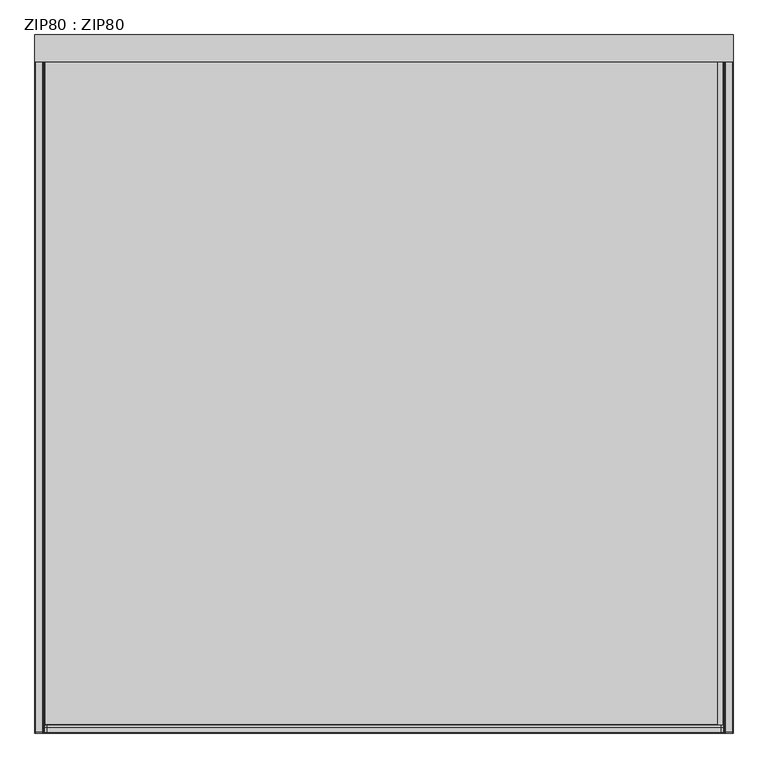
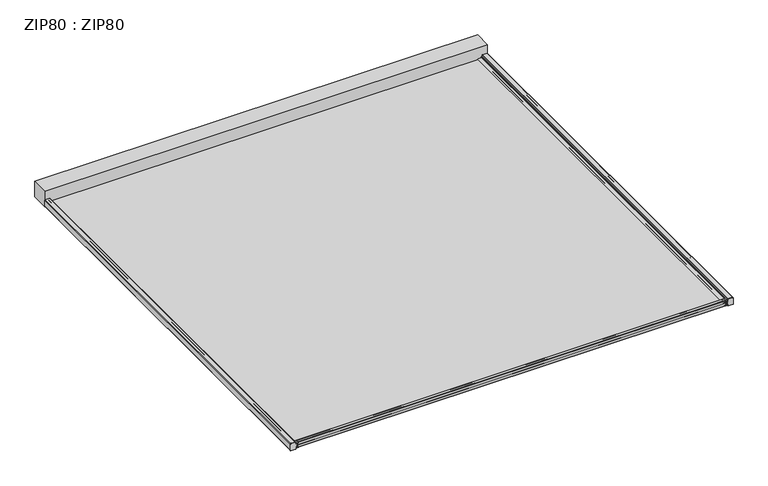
"""IFC4 building model written with IfcOpenShell, lengths in millimetres: proxy geometry, ZIP80 : ZIP80."""

from ifc_helpers import new_model, si_unit, point, frame, frame_2d, origin, origin_with_axes, place, context, project, spatial, polyline, circle_curve, trimmed, segment, composite_curve, outline, extrude, source, transform, mapped, element, save
from ifc_brep_helpers import plane_surface, cylinder_surface, advanced_brep


def zip80_zip80_a5059c3e(model_context):
    return source(origin(), model_context, "Body", "SolidModel", [
        extrude(outline(composite_curve([segment(trimmed(circle_curve(frame_2d((1.7422774, -1075.463027)), 1.7559348), [point((0.0, -1075.6816053))], [point((1.6734694, -1073.7084409))], False, "CARTESIAN"), True, "CONTINUOUS"), segment(trimmed(circle_curve(frame_2d((18.0, -1172.366661)), 100.0), [point((1.6734694, -1073.7084409))], [point((8.0080679, -1072.8671068))], False, "CARTESIAN"), True, "CONTINUOUS"), segment(trimmed(circle_curve(frame_2d((7.9281325, -1072.0711103)), 0.8), [point((8.0080679, -1072.8671068))], [point((8.7106505, -1072.2374397))], True, "CARTESIAN"), True, "CONTINUOUS"), segment(polyline([(8.7106505, -1072.2374397), (9.1994909, -1069.9376265)]), True, "CONTINUOUS"), segment(trimmed(circle_curve(frame_2d((9.7247455, -1070.4039234)), 0.7023711), [point((9.1994909, -1069.9376265))], [point((10.25, -1069.9376265))], False, "CARTESIAN"), True, "CONTINUOUS"), segment(polyline([(10.25, -1069.9376265), (25.7823744, -1069.9376265)]), True, "CONTINUOUS"), segment(trimmed(circle_curve(frame_2d((26.2914417, -1070.2414417)), 0.5928349), [point((25.7823744, -1069.9376265))], [point((26.8005091, -1069.9376265))], False, "CARTESIAN"), True, "CONTINUOUS"), segment(polyline([(26.8005091, -1069.9376265), (27.2893495, -1072.2374397)]), True, "CONTINUOUS"), segment(trimmed(circle_curve(frame_2d((28.0718675, -1072.0711103)), 0.8), [point((27.2893495, -1072.2374397))], [point((27.9919321, -1072.8671068))], True, "CARTESIAN"), True, "CONTINUOUS"), segment(trimmed(circle_curve(frame_2d((18.0, -1172.366661)), 100.0), [point((27.9919321, -1072.8671068))], [point((34.3265306, -1073.7084409))], False, "CARTESIAN"), True, "CONTINUOUS"), segment(trimmed(circle_curve(frame_2d((34.2324144, -1075.4844913)), 1.7785423), [point((34.3265306, -1073.7084409))], [point((36.0, -1075.6816053))], False, "CARTESIAN"), True, "CONTINUOUS"), segment(polyline([(36.0, -1075.6816053), (36.0, -1097.8)]), True, "CONTINUOUS"), segment(trimmed(circle_curve(frame_2d((34.0219176, -1098.010725)), 1.989275), [point((36.0, -1097.8))], [point((34.0219176, -1100.0))], False, "CARTESIAN"), True, "CONTINUOUS"), segment(polyline([(34.0219176, -1100.0), (2.2, -1100.0)]), True, "CONTINUOUS"), segment(trimmed(circle_curve(frame_2d((2.2, -1097.8)), 2.2), [point((2.2, -1100.0))], [point((0.0, -1097.8))], False, "CARTESIAN"), True, "CONTINUOUS"), segment(polyline([(0.0, -1097.8), (0.0, -1075.6816053)]), True, "CONTINUOUS")], self_intersect=False)), frame((0.0, 84.0, 0.0), z_axis=(0.0, 1.0, 0.0), x_axis=(0.0, 0.0, 1.0)), (0.0, 0.0, 1.0), 2.5),
        extrude(outline(composite_curve([segment(polyline([(25.75, -1079.4), (25.75, -1070.0)]), True, "CONTINUOUS"), segment(trimmed(circle_curve(frame_2d((26.2914417, -1070.2414417)), 0.5928349), [point((25.75, -1070.0))], [point((26.8005091, -1069.9376265))], False, "CARTESIAN"), True, "CONTINUOUS"), segment(polyline([(26.8005091, -1069.9376265), (27.2893495, -1072.2374397)]), True, "CONTINUOUS"), segment(trimmed(circle_curve(frame_2d((28.0718675, -1072.0711103)), 0.8), [point((27.2893495, -1072.2374397))], [point((27.9919321, -1072.8671068))], True, "CARTESIAN"), True, "CONTINUOUS"), segment(trimmed(circle_curve(frame_2d((18.0, -1172.366661)), 100.0), [point((27.9919321, -1072.8671068))], [point((34.3265306, -1073.7084409))], False, "CARTESIAN"), True, "CONTINUOUS"), segment(trimmed(circle_curve(frame_2d((34.2324144, -1075.4844913)), 1.7785423), [point((34.3265306, -1073.7084409))], [point((36.0, -1075.6816053))], False, "CARTESIAN"), True, "CONTINUOUS"), segment(polyline([(36.0, -1075.6816053), (36.0, -1097.8)]), True, "CONTINUOUS"), segment(trimmed(circle_curve(frame_2d((34.0219176, -1098.010725)), 1.989275), [point((36.0, -1097.8))], [point((34.0219176, -1100.0))], False, "CARTESIAN"), True, "CONTINUOUS"), segment(polyline([(34.0219176, -1100.0), (2.2, -1100.0)]), True, "CONTINUOUS"), segment(trimmed(circle_curve(frame_2d((2.2, -1097.8)), 2.2), [point((2.2, -1100.0))], [point((0.0, -1097.8))], False, "CARTESIAN"), True, "CONTINUOUS"), segment(polyline([(0.0, -1097.8), (0.0, -1075.6816053)]), True, "CONTINUOUS"), segment(trimmed(circle_curve(frame_2d((1.7422774, -1075.463027)), 1.7559348), [point((0.0, -1075.6816053))], [point((1.6734694, -1073.7084409))], False, "CARTESIAN"), True, "CONTINUOUS"), segment(trimmed(circle_curve(frame_2d((18.0, -1172.366661)), 100.0), [point((1.6734694, -1073.7084409))], [point((8.0080679, -1072.8671068))], False, "CARTESIAN"), True, "CONTINUOUS"), segment(trimmed(circle_curve(frame_2d((7.9281325, -1072.0711103)), 0.8), [point((8.0080679, -1072.8671068))], [point((8.7106505, -1072.2374397))], True, "CARTESIAN"), True, "CONTINUOUS"), segment(polyline([(8.7106505, -1072.2374397), (9.1994909, -1069.9376265)]), True, "CONTINUOUS"), segment(trimmed(circle_curve(frame_2d((9.7247455, -1070.4039234)), 0.7023711), [point((9.1994909, -1069.9376265))], [point((10.25, -1069.9376265))], False, "CARTESIAN"), True, "CONTINUOUS"), segment(polyline([(10.25, -1069.9376265), (10.25, -1079.4)]), True, "CONTINUOUS"), segment(trimmed(circle_curve(frame_2d((9.65, -1078.9881054)), 0.7277755), [point((10.25, -1079.4))], [point((9.05, -1079.4))], False, "CARTESIAN"), True, "CONTINUOUS"), segment(polyline([(9.05, -1079.4), (9.05, -1075.1150638)]), True, "CONTINUOUS"), segment(trimmed(circle_curve(frame_2d((8.4890653, -1075.1150638)), 0.5609347), [point((9.05, -1075.1150638))], [point((8.4890653, -1074.5541291))], True, "CARTESIAN"), True, "CONTINUOUS"), segment(polyline([(8.4890653, -1074.5541291), (2.4781307, -1075.2921791)]), True, "CONTINUOUS"), segment(trimmed(circle_curve(frame_2d((2.6, -1076.2847253)), 1.0), [point((2.4781307, -1075.2921791))], [point((1.6, -1076.2847253))], True, "CARTESIAN"), True, "CONTINUOUS"), segment(polyline([(1.6, -1076.2847253), (1.6, -1088.7), (34.4, -1088.7), (34.4, -1076.2847253)]), True, "CONTINUOUS"), segment(trimmed(circle_curve(frame_2d((33.4, -1076.2847253)), 1.0), [point((34.4, -1076.2847253))], [point((33.5218693, -1075.2921791))], True, "CARTESIAN"), True, "CONTINUOUS"), segment(polyline([(33.5218693, -1075.2921791), (27.5109347, -1074.5541291)]), True, "CONTINUOUS"), segment(trimmed(circle_curve(frame_2d((27.5109347, -1075.1150638)), 0.5609347), [point((27.5109347, -1074.5541291))], [point((26.95, -1075.1150638))], True, "CARTESIAN"), True, "CONTINUOUS"), segment(polyline([(26.95, -1075.1150638), (26.95, -1079.4)]), True, "CONTINUOUS"), segment(trimmed(circle_curve(frame_2d((26.35, -1078.9507451)), 0.7495532), [point((26.95, -1079.4))], [point((25.75, -1079.4))], False, "CARTESIAN"), True, "CONTINUOUS")], self_intersect=False)), frame((0.0, 86.5, 0.0), z_axis=(0.0, 1.0, 0.0), x_axis=(0.0, 0.0, 1.0)), (0.0, 0.0, 1.0), 2113.5),
        extrude(outline(polyline([(1084.649649, 84.6889479), (1069.649649, 84.6889479), (1069.649649, 110.6794166), (1084.649649, 110.6794166), (1084.649649, 84.6889479)])), frame((0.0, 0.0, 12.4227429), z_axis=(0.0, 0.0, 1.0), x_axis=(1.0, 0.0, 0.0)), (0.0, 0.0, 1.0), 11.1545142),
        extrude(outline(polyline([(-1084.649649, 84.6889479), (-1084.649649, 110.6794166), (-1069.649649, 110.6794166), (-1069.649649, 84.6889479), (-1084.649649, 84.6889479)])), frame((0.0, 0.0, 12.4227429), z_axis=(0.0, 0.0, 1.0), x_axis=(1.0, 0.0, 0.0)), (0.0, 0.0, 1.0), 11.1545142),
        extrude(outline(composite_curve([segment(trimmed(circle_curve(frame_2d((61.0414996, -12.924064)), 60.0), [point((100.3, 32.4496084))], [point((110.0965711, 21.624452))], False, "CARTESIAN"), True, "CONTINUOUS"), segment(trimmed(circle_curve(frame_2d((98.4949342, 17.9496084)), 12.1697352), [point((110.0965711, 21.624452))], [point((110.0965711, 14.2747649))], False, "CARTESIAN"), True, "CONTINUOUS"), segment(trimmed(circle_curve(frame_2d((61.0414996, 48.8232809)), 60.0), [point((110.0965711, 14.2747649))], [point((100.3, 3.4496084))], False, "CARTESIAN"), True, "CONTINUOUS"), segment(trimmed(circle_curve(frame_2d((92.55, 52.8453319)), 50.0), [point((100.3, 3.4496084))], [point((86.3796304, 3.2275273))], False, "CARTESIAN"), True, "CONTINUOUS"), segment(trimmed(circle_curve(frame_2d((86.6264452, 5.2122395)), 2.0), [point((86.3796304, 3.2275273))], [point((84.6360972, 5.0159875))], False, "CARTESIAN"), True, "CONTINUOUS"), segment(trimmed(circle_curve(frame_2d((215.80625, 17.9496084)), 131.80625), [point((84.6360972, 5.0159875))], [point((84.6360972, 30.8832294))], False, "CARTESIAN"), True, "CONTINUOUS"), segment(trimmed(circle_curve(frame_2d((86.6264452, 30.6869774)), 2.0), [point((84.6360972, 30.8832294))], [point((86.3796304, 32.6716896))], False, "CARTESIAN"), True, "CONTINUOUS"), segment(trimmed(circle_curve(frame_2d((92.55, -16.9461151)), 50.0), [point((86.3796304, 32.6716896))], [point((100.3, 32.4496084))], False, "CARTESIAN"), True, "CONTINUOUS")], self_intersect=False)), frame((1062.649649, 0.0, 0.0), z_axis=(1.0, 0.0, 0.0), x_axis=(0.0, 1.0, 0.0)), (0.0, 0.0, 1.0), 7.0),
        advanced_brep(
        [(-1062.649649, 100.3, 32.4496084), (-1062.649649, 86.3796304, 32.6716896), (-1062.649649, 84.6360972, 30.8832294), (-1062.649649, 84.6360972, 5.0159875), (-1062.649649, 86.3796304, 3.2275273), (-1062.649649, 100.3, 3.4496084), (-1062.649649, 110.0965711, 14.2747649), (-1062.649649, 110.1319327, 21.5859735), (-1069.649649, 100.3, 32.4496084), (-1069.649649, 110.1250029, 21.5840467), (-1069.649649, 110.14738, 14.2602109), (-1069.649649, 100.3, 3.4496084), (-1069.649649, 86.3796304, 3.2275273), (-1069.649649, 84.6360972, 5.0159875), (-1069.649649, 84.6360972, 30.8832294), (-1069.649649, 86.3796304, 32.6716896)],
        [
            (0, 1, circle_curve(frame((-1062.649649, 92.55, -16.9461151), z_axis=(1.0, 0.0, 0.0), x_axis=(0.0, 1.0, 0.0)), 50.0)),
            (1, 2, circle_curve(frame((-1062.649649, 86.6264452, 30.6869774), z_axis=(1.0, 0.0, 0.0), x_axis=(0.0, 1.0, 0.0)), 2.0)),
            (2, 3, circle_curve(frame((-1062.649649, 215.80625, 17.9496084), z_axis=(1.0, 0.0, 0.0), x_axis=(0.0, 1.0, 0.0)), 131.80625)),
            (3, 4, circle_curve(frame((-1062.649649, 86.6264452, 5.2122395), z_axis=(1.0, 0.0, 0.0), x_axis=(0.0, 1.0, 0.0)), 2.0)),
            (4, 5, circle_curve(frame((-1062.649649, 92.55, 52.8453319), z_axis=(1.0, 0.0, 0.0), x_axis=(0.0, 1.0, 0.0)), 50.0)),
            (5, 6, circle_curve(frame((-1062.649649, 61.0414996, 48.8232809), z_axis=(1.0, 0.0, 0.0), x_axis=(0.0, 1.0, 0.0)), 60.0)),
            (6, 7, circle_curve(frame((-1062.649649, 96.1569094, 17.8936079), z_axis=(1.0, 0.0, 0.0), x_axis=(0.0, 1.0, 0.0)), 14.4545785)),
            (7, 0, circle_curve(frame((-1062.649649, 61.0414996, -12.924064), z_axis=(1.0, 0.0, 0.0), x_axis=(0.0, 1.0, 0.0)), 60.0)),
            (8, 9, circle_curve(frame((-1069.649649, 61.0414996, -12.924064), z_axis=(-1.0, 0.0, 0.0), x_axis=(0.0, 1.0, 0.0)), 60.0)),
            (9, 10, circle_curve(frame((-1069.649649, 96.1569094, 17.8936079), z_axis=(-1.0, 0.0, 0.0), x_axis=(0.0, 1.0, 0.0)), 14.4545785)),
            (10, 11, circle_curve(frame((-1069.649649, 61.0414996, 48.8232809), z_axis=(-1.0, 0.0, 0.0), x_axis=(0.0, 1.0, 0.0)), 60.0)),
            (11, 12, circle_curve(frame((-1069.649649, 92.55, 52.8453319), z_axis=(-1.0, 0.0, 0.0), x_axis=(0.0, 1.0, 0.0)), 50.0)),
            (12, 13, circle_curve(frame((-1069.649649, 86.6264452, 5.2122395), z_axis=(-1.0, 0.0, 0.0), x_axis=(0.0, 1.0, 0.0)), 2.0)),
            (13, 14, circle_curve(frame((-1069.649649, 215.80625, 17.9496084), z_axis=(-1.0, 0.0, 0.0), x_axis=(0.0, 1.0, 0.0)), 131.80625)),
            (14, 15, circle_curve(frame((-1069.649649, 86.6264452, 30.6869774), z_axis=(-1.0, 0.0, 0.0), x_axis=(0.0, 1.0, 0.0)), 2.0)),
            (15, 8, circle_curve(frame((-1069.649649, 92.55, -16.9461151), z_axis=(-1.0, 0.0, 0.0), x_axis=(0.0, 1.0, 0.0)), 50.0)),
            (0, 8),
            (15, 1),
            (14, 2),
            (13, 3),
            (12, 4),
            (11, 5),
            (10, 6),
            (9, 7),
        ],
        [
            plane_surface(frame((-1062.649649, 142.55, -16.9461151), z_axis=(1.0, 0.0, 0.0), x_axis=(0.0, 0.0, 1.0))),
            plane_surface(frame((-1069.649649, 142.55, -16.9461151), z_axis=(-1.0, 0.0, 0.0), x_axis=(0.0, 0.0, -1.0))),
            cylinder_surface(frame((-1069.649649, 92.55, -16.9461151), z_axis=(1.0, 0.0, 0.0), x_axis=(0.0, 1.0, 0.0)), 50.0),
            cylinder_surface(frame((-1069.649649, 86.6264452, 30.6869774), z_axis=(1.0, 0.0, 0.0), x_axis=(0.0, 1.0, 0.0)), 2.0),
            cylinder_surface(frame((-1069.649649, 215.80625, 17.9496084), z_axis=(1.0, 0.0, 0.0), x_axis=(0.0, 1.0, 0.0)), 131.80625),
            cylinder_surface(frame((-1069.649649, 86.6264452, 5.2122395), z_axis=(1.0, 0.0, 0.0), x_axis=(0.0, 1.0, 0.0)), 2.0),
            cylinder_surface(frame((-1069.649649, 92.55, 52.8453319), z_axis=(1.0, 0.0, 0.0), x_axis=(0.0, 1.0, 0.0)), 50.0),
            cylinder_surface(frame((-1069.649649, 61.0414996, 48.8232809), z_axis=(1.0, 0.0, 0.0), x_axis=(0.0, 1.0, 0.0)), 60.0),
            cylinder_surface(frame((-1069.649649, 96.1569094, 17.8936079), z_axis=(1.0, 0.0, 0.0), x_axis=(0.0, 1.0, 0.0)), 14.4545785),
            cylinder_surface(frame((-1069.649649, 61.0414996, -12.924064), z_axis=(1.0, 0.0, 0.0), x_axis=(0.0, 1.0, 0.0)), 60.0),
        ],
        [
            (0, [[1, 2, 3, 4, 5, 6, 7, 8]]),
            (1, [[9, 10, 11, 12, 13, 14, 15, 16]]),
            (2, [[-1, 17, -16, 18]]),
            (3, [[-2, -18, -15, 19]]),
            (4, [[-3, -19, -14, 20]]),
            (5, [[-4, -20, -13, 21]]),
            (6, [[-5, -21, -12, 22]]),
            (7, [[-6, -22, -11, 23]]),
            (8, [[-7, -23, -10, 24]]),
            (9, [[-8, -24, -9, -17]]),
        ],
    ),
        extrude(outline(composite_curve([segment(trimmed(circle_curve(frame_2d((61.0414996, -12.924064)), 60.0), [point((100.3, 32.4496084))], [point((110.0965711, 21.624452))], False, "CARTESIAN"), True, "CONTINUOUS"), segment(trimmed(circle_curve(frame_2d((109.5389048, 21.2316986)), 0.6820902), [point((110.0965711, 21.624452))], [point((108.9608793, 20.8695749))], False, "CARTESIAN"), True, "CONTINUOUS"), segment(trimmed(circle_curve(frame_2d((104.3, 17.9496084)), 5.5), [point((108.9608793, 20.8695749))], [point((108.9608793, 15.029642))], True, "CARTESIAN"), True, "CONTINUOUS"), segment(trimmed(circle_curve(frame_2d((109.5389048, 14.6675183)), 0.6820902), [point((108.9608793, 15.029642))], [point((110.0965711, 14.2747649))], False, "CARTESIAN"), True, "CONTINUOUS"), segment(trimmed(circle_curve(frame_2d((61.0414996, 48.8232809)), 60.0), [point((110.0965711, 14.2747649))], [point((100.3, 3.4496084))], False, "CARTESIAN"), True, "CONTINUOUS"), segment(trimmed(circle_curve(frame_2d((92.55, 52.8453319)), 50.0), [point((100.3, 3.4496084))], [point((86.3796304, 3.2275273))], False, "CARTESIAN"), True, "CONTINUOUS"), segment(trimmed(circle_curve(frame_2d((86.6264452, 5.2122395)), 2.0), [point((86.3796304, 3.2275273))], [point((84.6360972, 5.0159875))], False, "CARTESIAN"), True, "CONTINUOUS"), segment(trimmed(circle_curve(frame_2d((215.80625, 17.9496084)), 131.80625), [point((84.6360972, 5.0159875))], [point((84.6360972, 30.8832294))], False, "CARTESIAN"), True, "CONTINUOUS"), segment(trimmed(circle_curve(frame_2d((86.6264452, 30.6869774)), 2.0), [point((84.6360972, 30.8832294))], [point((86.3796304, 32.6716896))], False, "CARTESIAN"), True, "CONTINUOUS"), segment(trimmed(circle_curve(frame_2d((92.55, -16.9461151)), 50.0), [point((86.3796304, 32.6716896))], [point((100.3, 32.4496084))], False, "CARTESIAN"), True, "CONTINUOUS")], self_intersect=False)), frame((-1062.649649, 0.0, 0.0), z_axis=(1.0, 0.0, 0.0), x_axis=(0.0, 1.0, 0.0)), (0.0, 0.0, 1.0), 2125.299298),
        extrude(outline(composite_curve([segment(polyline([(0.0, 1075.6816053), (0.0, 1097.8)]), True, "CONTINUOUS"), segment(trimmed(circle_curve(frame_2d((2.2, 1097.8)), 2.2), [point((0.0, 1097.8))], [point((2.2, 1100.0))], False, "CARTESIAN"), True, "CONTINUOUS"), segment(polyline([(2.2, 1100.0), (34.0219176, 1100.0)]), True, "CONTINUOUS"), segment(trimmed(circle_curve(frame_2d((34.0219176, 1098.010725)), 1.989275), [point((34.0219176, 1100.0))], [point((36.0, 1097.8))], False, "CARTESIAN"), True, "CONTINUOUS"), segment(polyline([(36.0, 1097.8), (36.0, 1075.6816053)]), True, "CONTINUOUS"), segment(trimmed(circle_curve(frame_2d((34.2324144, 1075.4844913)), 1.7785423), [point((36.0, 1075.6816053))], [point((34.3265306, 1073.7084409))], False, "CARTESIAN"), True, "CONTINUOUS"), segment(trimmed(circle_curve(frame_2d((18.0, 1172.366661)), 100.0), [point((34.3265306, 1073.7084409))], [point((27.9919321, 1072.8671068))], False, "CARTESIAN"), True, "CONTINUOUS"), segment(trimmed(circle_curve(frame_2d((28.0718675, 1072.0711103)), 0.8), [point((27.9919321, 1072.8671068))], [point((27.2893495, 1072.2374397))], True, "CARTESIAN"), True, "CONTINUOUS"), segment(polyline([(27.2893495, 1072.2374397), (26.8005091, 1069.9376265)]), True, "CONTINUOUS"), segment(trimmed(circle_curve(frame_2d((26.2914417, 1070.2414417)), 0.5928349), [point((26.8005091, 1069.9376265))], [point((25.7823744, 1069.9376265))], False, "CARTESIAN"), True, "CONTINUOUS"), segment(polyline([(25.7823744, 1069.9376265), (10.25, 1069.9376265)]), True, "CONTINUOUS"), segment(trimmed(circle_curve(frame_2d((9.7247455, 1070.4039234)), 0.7023711), [point((10.25, 1069.9376265))], [point((9.1994909, 1069.9376265))], False, "CARTESIAN"), True, "CONTINUOUS"), segment(polyline([(9.1994909, 1069.9376265), (8.7106505, 1072.2374397)]), True, "CONTINUOUS"), segment(trimmed(circle_curve(frame_2d((7.9281325, 1072.0711103)), 0.8), [point((8.7106505, 1072.2374397))], [point((8.0080679, 1072.8671068))], True, "CARTESIAN"), True, "CONTINUOUS"), segment(trimmed(circle_curve(frame_2d((18.0, 1172.366661)), 100.0), [point((8.0080679, 1072.8671068))], [point((1.6734694, 1073.7084409))], False, "CARTESIAN"), True, "CONTINUOUS"), segment(trimmed(circle_curve(frame_2d((1.7422774, 1075.463027)), 1.7559348), [point((1.6734694, 1073.7084409))], [point((0.0, 1075.6816053))], False, "CARTESIAN"), True, "CONTINUOUS")], self_intersect=False)), frame((0.0, 84.0, 0.0), z_axis=(0.0, 1.0, 0.0), x_axis=(0.0, 0.0, 1.0)), (0.0, 0.0, 1.0), 2.5),
        extrude(outline(composite_curve([segment(trimmed(circle_curve(frame_2d((26.35, 1078.9507451)), 0.7495532), [point((25.75, 1079.4))], [point((26.95, 1079.4))], False, "CARTESIAN"), True, "CONTINUOUS"), segment(polyline([(26.95, 1079.4), (26.95, 1075.1150638)]), True, "CONTINUOUS"), segment(trimmed(circle_curve(frame_2d((27.5109347, 1075.1150638)), 0.5609347), [point((26.95, 1075.1150638))], [point((27.5109347, 1074.5541291))], True, "CARTESIAN"), True, "CONTINUOUS"), segment(polyline([(27.5109347, 1074.5541291), (33.5218693, 1075.2921791)]), True, "CONTINUOUS"), segment(trimmed(circle_curve(frame_2d((33.4, 1076.2847253)), 1.0), [point((33.5218693, 1075.2921791))], [point((34.4, 1076.2847253))], True, "CARTESIAN"), True, "CONTINUOUS"), segment(polyline([(34.4, 1076.2847253), (34.4, 1088.7), (1.6, 1088.7), (1.6, 1076.2847253)]), True, "CONTINUOUS"), segment(trimmed(circle_curve(frame_2d((2.6, 1076.2847253)), 1.0), [point((1.6, 1076.2847253))], [point((2.4781307, 1075.2921791))], True, "CARTESIAN"), True, "CONTINUOUS"), segment(polyline([(2.4781307, 1075.2921791), (8.4890653, 1074.5541291)]), True, "CONTINUOUS"), segment(trimmed(circle_curve(frame_2d((8.4890653, 1075.1150638)), 0.5609347), [point((8.4890653, 1074.5541291))], [point((9.05, 1075.1150638))], True, "CARTESIAN"), True, "CONTINUOUS"), segment(polyline([(9.05, 1075.1150638), (9.05, 1079.4)]), True, "CONTINUOUS"), segment(trimmed(circle_curve(frame_2d((9.65, 1078.9881054)), 0.7277755), [point((9.05, 1079.4))], [point((10.25, 1079.4))], False, "CARTESIAN"), True, "CONTINUOUS"), segment(polyline([(10.25, 1079.4), (10.25, 1069.9376265)]), True, "CONTINUOUS"), segment(trimmed(circle_curve(frame_2d((9.7247455, 1070.4039234)), 0.7023711), [point((10.25, 1069.9376265))], [point((9.1994909, 1069.9376265))], False, "CARTESIAN"), True, "CONTINUOUS"), segment(polyline([(9.1994909, 1069.9376265), (8.7106505, 1072.2374397)]), True, "CONTINUOUS"), segment(trimmed(circle_curve(frame_2d((7.9281325, 1072.0711103)), 0.8), [point((8.7106505, 1072.2374397))], [point((8.0080679, 1072.8671068))], True, "CARTESIAN"), True, "CONTINUOUS"), segment(trimmed(circle_curve(frame_2d((18.0, 1172.366661)), 100.0), [point((8.0080679, 1072.8671068))], [point((1.6734694, 1073.7084409))], False, "CARTESIAN"), True, "CONTINUOUS"), segment(trimmed(circle_curve(frame_2d((1.7422774, 1075.463027)), 1.7559348), [point((1.6734694, 1073.7084409))], [point((0.0, 1075.6816053))], False, "CARTESIAN"), True, "CONTINUOUS"), segment(polyline([(0.0, 1075.6816053), (0.0, 1097.8)]), True, "CONTINUOUS"), segment(trimmed(circle_curve(frame_2d((2.2, 1097.8)), 2.2), [point((0.0, 1097.8))], [point((2.2, 1100.0))], False, "CARTESIAN"), True, "CONTINUOUS"), segment(polyline([(2.2, 1100.0), (34.0219176, 1100.0)]), True, "CONTINUOUS"), segment(trimmed(circle_curve(frame_2d((34.0219176, 1098.010725)), 1.989275), [point((34.0219176, 1100.0))], [point((36.0, 1097.8))], False, "CARTESIAN"), True, "CONTINUOUS"), segment(polyline([(36.0, 1097.8), (36.0, 1075.6816053)]), True, "CONTINUOUS"), segment(trimmed(circle_curve(frame_2d((34.2324144, 1075.4844913)), 1.7785423), [point((36.0, 1075.6816053))], [point((34.3265306, 1073.7084409))], False, "CARTESIAN"), True, "CONTINUOUS"), segment(trimmed(circle_curve(frame_2d((18.0, 1172.366661)), 100.0), [point((34.3265306, 1073.7084409))], [point((27.9919321, 1072.8671068))], False, "CARTESIAN"), True, "CONTINUOUS"), segment(trimmed(circle_curve(frame_2d((28.0718675, 1072.0711103)), 0.8), [point((27.9919321, 1072.8671068))], [point((27.2893495, 1072.2374397))], True, "CARTESIAN"), True, "CONTINUOUS"), segment(polyline([(27.2893495, 1072.2374397), (26.8005091, 1069.9376265)]), True, "CONTINUOUS"), segment(trimmed(circle_curve(frame_2d((26.2914417, 1070.2414417)), 0.5928349), [point((26.8005091, 1069.9376265))], [point((25.75, 1070.0))], False, "CARTESIAN"), True, "CONTINUOUS"), segment(polyline([(25.75, 1070.0), (25.75, 1079.4)]), True, "CONTINUOUS")], self_intersect=False)), frame((0.0, 86.5, 0.0), z_axis=(0.0, 1.0, 0.0), x_axis=(0.0, 0.0, 1.0)), (0.0, 0.0, 1.0), 2113.5),
        extrude(outline(polyline([(1100.0, 2284.0), (1100.0, 2200.0), (-1100.0, 2200.0), (-1100.0, 2284.0), (1100.0, 2284.0)])), origin_with_axes(), (0.0, 0.0, 1.0), 81.0),
        extrude(outline(polyline([(1069.649649, 2284.0), (1069.649649, 84.0), (-1069.649649, 84.0), (-1069.649649, 2284.0), (1069.649649, 2284.0)])), frame((0.0, 0.0, 18.0), z_axis=(0.0, 0.0, 1.0), x_axis=(1.0, 0.0, 0.0)), (0.0, 0.0, 1.0), 1.0),
        extrude(outline(polyline([(1073.779005, 84.0), (1052.0965711, 84.0), (1052.0965711, 2284.0), (1073.779005, 2284.0), (1073.779005, 84.0)])), frame((0.0, 0.0, 21.8235993), z_axis=(0.0, 0.0, 1.0), x_axis=(1.0, 0.0, 0.0)), (0.0, 0.0, 1.0), 1.0),
    ])


if __name__ == "__main__":
    model = new_model("IFC4")
    model_context = context("Model", 3, world=origin())
    ifc_project = project(units=[si_unit("LENGTHUNIT", "METRE", prefix="MILLI")], contexts=[model_context])
    site = spatial("IfcSite", under=ifc_project)
    building = spatial("IfcBuilding", under=site)
    placement = place(None, origin())
    zip80_zip80_shape = zip80_zip80_a5059c3e(model_context)
    element("IfcBuildingElementProxy", 1, Name="ZIP80 : ZIP80", ObjectType="ZIP80 : ZIP80", at=placement, inside=building, context=model_context, shape_type="MappedRepresentation", body=[
        mapped(zip80_zip80_shape, transform((0.0, 0.0, 0.0), x_axis=(1.0, 0.0, 0.0), y_axis=(0.0, 1.0, 0.0), z_axis=(0.0, 0.0, 1.0))),
    ])
    save(model, "model.ifc")
